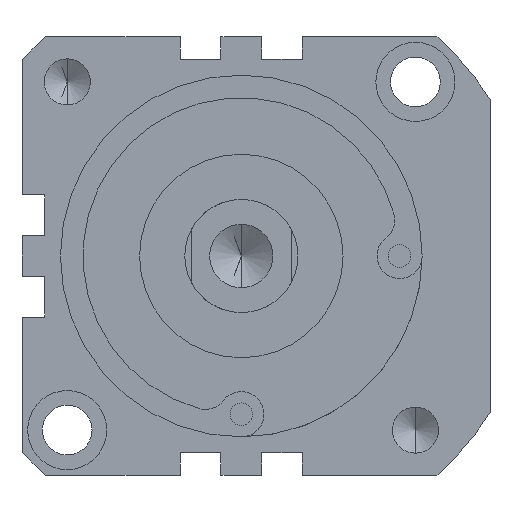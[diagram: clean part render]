
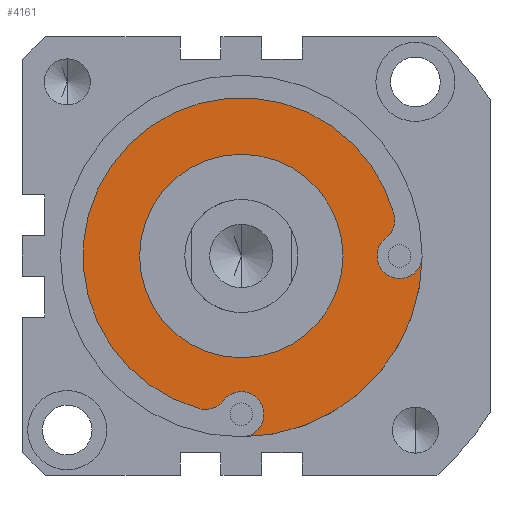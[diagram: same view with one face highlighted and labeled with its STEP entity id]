
A CAD part, front view. The second image highlights one B-rep face of the part: STEP entity #4161.
In plain terms, the highlighted planar face has unit normal (0, -1, 0).
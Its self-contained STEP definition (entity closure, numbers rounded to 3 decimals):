
#7 = EDGE_CURVE ( 'NONE', #452, #1811, #3514, .T. ) ;
#49 = DIRECTION ( 'NONE',  ( 0., 1., 0. ) ) ;
#145 = CARTESIAN_POINT ( 'NONE',  ( 0., -81.5, 22.5 ) ) ;
#156 = ORIENTED_EDGE ( 'NONE', *, *, #1994, .F. ) ;
#239 = AXIS2_PLACEMENT_3D ( 'NONE', #3800, #1789, #3452 ) ;
#294 = CARTESIAN_POINT ( 'NONE',  ( 35., -81.5, 0. ) ) ;
#308 = EDGE_CURVE ( 'NONE', #1609, #2732, #1807, .T. ) ;
#315 = ORIENTED_EDGE ( 'NONE', *, *, #7, .T. ) ;
#337 = AXIS2_PLACEMENT_3D ( 'NONE', #1299, #1616, #4197 ) ;
#348 = AXIS2_PLACEMENT_3D ( 'NONE', #455, #3064, #3013 ) ;
#452 = VERTEX_POINT ( 'NONE', #2787 ) ;
#455 = CARTESIAN_POINT ( 'NONE',  ( -7.946, -81.5, -28.929 ) ) ;
#501 = ORIENTED_EDGE ( 'NONE', *, *, #4134, .F. ) ;
#607 = CARTESIAN_POINT ( 'NONE',  ( 0., -81.5, 0. ) ) ;
#651 = PLANE ( 'NONE',  #693 ) ;
#693 = AXIS2_PLACEMENT_3D ( 'NONE', #607, #2922, #3222 ) ;
#745 = VERTEX_POINT ( 'NONE', #1809 ) ;
#755 = ORIENTED_EDGE ( 'NONE', *, *, #4068, .T. ) ;
#772 = AXIS2_PLACEMENT_3D ( 'NONE', #1637, #2959, #3985 ) ;
#824 = DIRECTION ( 'NONE',  ( 0., 0., -1. ) ) ;
#951 = DIRECTION ( 'NONE',  ( 0., 0., 1. ) ) ;
#975 = DIRECTION ( 'NONE',  ( 0., 1., 0. ) ) ;
#982 = VERTEX_POINT ( 'NONE', #2256 ) ;
#1101 = FACE_OUTER_BOUND ( 'NONE', #2901, .T. ) ;
#1138 = CARTESIAN_POINT ( 'NONE',  ( 31.964, -81.5, 3.973 ) ) ;
#1170 = ORIENTED_EDGE ( 'NONE', *, *, #308, .T. ) ;
#1257 = DIRECTION ( 'NONE',  ( 0., -1., 0. ) ) ;
#1299 = CARTESIAN_POINT ( 'NONE',  ( 0., -81.5, 0. ) ) ;
#1342 = CARTESIAN_POINT ( 'NONE',  ( 0., -81.5, 0. ) ) ;
#1417 = ORIENTED_EDGE ( 'NONE', *, *, #3169, .T. ) ;
#1450 = DIRECTION ( 'NONE',  ( 0., 1., 0. ) ) ;
#1609 = VERTEX_POINT ( 'NONE', #3577 ) ;
#1616 = DIRECTION ( 'NONE',  ( 0., 1., 0. ) ) ;
#1617 = CIRCLE ( 'NONE', #2937, 5. ) ;
#1637 = CARTESIAN_POINT ( 'NONE',  ( 0., -81.5, -35. ) ) ;
#1668 = AXIS2_PLACEMENT_3D ( 'NONE', #3210, #1257, #3544 ) ;
#1789 = DIRECTION ( 'NONE',  ( 0., 1., 0. ) ) ;
#1807 = CIRCLE ( 'NONE', #2651, 22.5 ) ;
#1809 = CARTESIAN_POINT ( 'NONE',  ( -7.946, -81.5, -33.929 ) ) ;
#1811 = VERTEX_POINT ( 'NONE', #2021 ) ;
#1876 = DIRECTION ( 'NONE',  ( 0., 0., 1. ) ) ;
#1913 = EDGE_CURVE ( 'NONE', #982, #745, #2652, .T. ) ;
#1994 = EDGE_CURVE ( 'NONE', #452, #2302, #3012, .T. ) ;
#2021 = CARTESIAN_POINT ( 'NONE',  ( 35., -81.5, -5. ) ) ;
#2087 = AXIS2_PLACEMENT_3D ( 'NONE', #3095, #1450, #2117 ) ;
#2117 = DIRECTION ( 'NONE',  ( 0., 0., 1. ) ) ;
#2148 = ORIENTED_EDGE ( 'NONE', *, *, #3989, .T. ) ;
#2256 = CARTESIAN_POINT ( 'NONE',  ( -9.27, -81.5, -33.75 ) ) ;
#2269 = ORIENTED_EDGE ( 'NONE', *, *, #3295, .T. ) ;
#2302 = VERTEX_POINT ( 'NONE', #3521 ) ;
#2303 = DIRECTION ( 'NONE',  ( 0., 0., 1. ) ) ;
#2319 = EDGE_LOOP ( 'NONE', ( #1170, #2269 ) ) ;
#2461 = FACE_BOUND ( 'NONE', #2319, .T. ) ;
#2476 = CARTESIAN_POINT ( 'NONE',  ( 33.75, -81.5, 9.27 ) ) ;
#2613 = VERTEX_POINT ( 'NONE', #1138 ) ;
#2651 = AXIS2_PLACEMENT_3D ( 'NONE', #1342, #49, #2303 ) ;
#2652 = CIRCLE ( 'NONE', #348, 5. ) ;
#2732 = VERTEX_POINT ( 'NONE', #145 ) ;
#2765 = CIRCLE ( 'NONE', #337, 35. ) ;
#2787 = CARTESIAN_POINT ( 'NONE',  ( 40., -81.5, 0. ) ) ;
#2799 = VERTEX_POINT ( 'NONE', #2476 ) ;
#2816 = CARTESIAN_POINT ( 'NONE',  ( 0., -81.5, 0. ) ) ;
#2878 = CIRCLE ( 'NONE', #772, 5. ) ;
#2901 = EDGE_LOOP ( 'NONE', ( #315, #2148, #1417, #501, #3308, #3342, #755, #156 ) ) ;
#2922 = DIRECTION ( 'NONE',  ( 0., -1., 0. ) ) ;
#2937 = AXIS2_PLACEMENT_3D ( 'NONE', #4123, #3465, #824 ) ;
#2959 = DIRECTION ( 'NONE',  ( 0., 1., 0. ) ) ;
#3012 = CIRCLE ( 'NONE', #2087, 40. ) ;
#3013 = DIRECTION ( 'NONE',  ( 0., 0., -1. ) ) ;
#3064 = DIRECTION ( 'NONE',  ( 0., -1., 0. ) ) ;
#3095 = CARTESIAN_POINT ( 'NONE',  ( 0., -81.5, 0. ) ) ;
#3169 = EDGE_CURVE ( 'NONE', #2613, #2799, #1617, .T. ) ;
#3192 = CIRCLE ( 'NONE', #4124, 5. ) ;
#3210 = CARTESIAN_POINT ( 'NONE',  ( -7.946, -81.5, -28.929 ) ) ;
#3222 = DIRECTION ( 'NONE',  ( 0., 0., 1. ) ) ;
#3295 = EDGE_CURVE ( 'NONE', #2732, #1609, #3568, .T. ) ;
#3302 = CIRCLE ( 'NONE', #1668, 5. ) ;
#3308 = ORIENTED_EDGE ( 'NONE', *, *, #1913, .T. ) ;
#3342 = ORIENTED_EDGE ( 'NONE', *, *, #3872, .T. ) ;
#3428 = VERTEX_POINT ( 'NONE', #3566 ) ;
#3452 = DIRECTION ( 'NONE',  ( 0., 0., 1. ) ) ;
#3465 = DIRECTION ( 'NONE',  ( 0., -1., 0. ) ) ;
#3514 = CIRCLE ( 'NONE', #239, 5. ) ;
#3521 = CARTESIAN_POINT ( 'NONE',  ( 0., -81.5, -40. ) ) ;
#3544 = DIRECTION ( 'NONE',  ( 0., 0., -1. ) ) ;
#3566 = CARTESIAN_POINT ( 'NONE',  ( -3.973, -81.5, -31.964 ) ) ;
#3568 = CIRCLE ( 'NONE', #4046, 22.5 ) ;
#3577 = CARTESIAN_POINT ( 'NONE',  ( 0., -81.5, -22.5 ) ) ;
#3800 = CARTESIAN_POINT ( 'NONE',  ( 35., -81.5, 0. ) ) ;
#3841 = DIRECTION ( 'NONE',  ( 0., 1., 0. ) ) ;
#3872 = EDGE_CURVE ( 'NONE', #745, #3428, #3302, .T. ) ;
#3985 = DIRECTION ( 'NONE',  ( 0., 0., 1. ) ) ;
#3989 = EDGE_CURVE ( 'NONE', #1811, #2613, #3192, .T. ) ;
#4046 = AXIS2_PLACEMENT_3D ( 'NONE', #2816, #3841, #1876 ) ;
#4068 = EDGE_CURVE ( 'NONE', #3428, #2302, #2878, .T. ) ;
#4123 = CARTESIAN_POINT ( 'NONE',  ( 28.929, -81.5, 7.946 ) ) ;
#4124 = AXIS2_PLACEMENT_3D ( 'NONE', #294, #975, #951 ) ;
#4134 = EDGE_CURVE ( 'NONE', #982, #2799, #2765, .T. ) ;
#4161 = ADVANCED_FACE ( 'NONE', ( #1101, #2461 ), #651, .T. ) ;
#4197 = DIRECTION ( 'NONE',  ( 0., 0., 1. ) ) ;
